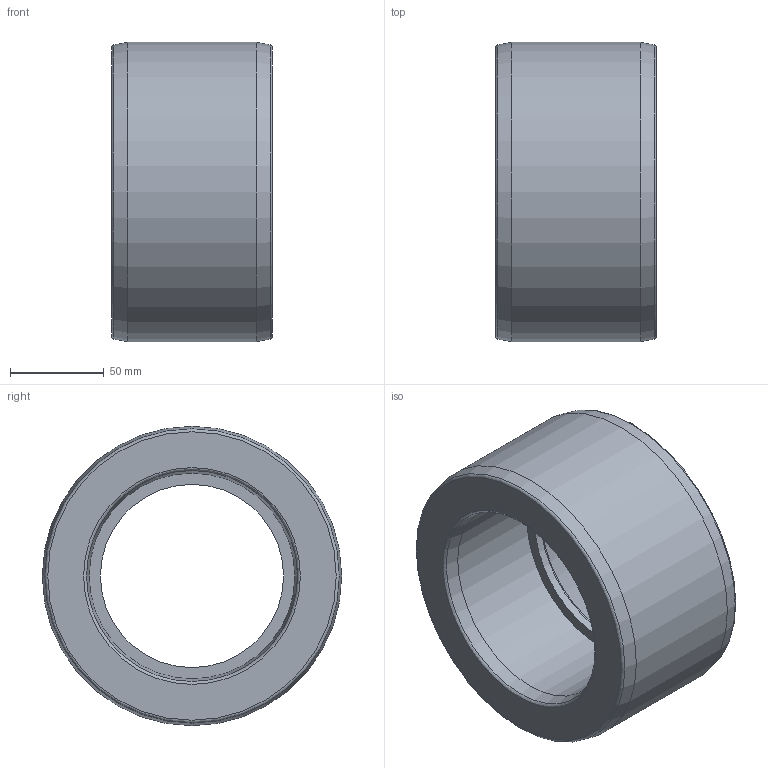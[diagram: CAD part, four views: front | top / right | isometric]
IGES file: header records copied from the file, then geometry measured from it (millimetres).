
Global section: file name: 050900160110.ipt; native system: Autodesk Inventor 2015; preprocessor: unknown; author: KIM; date: 20171207.165139; units: millimetre
Bounding box: 86 x 160 x 160 mm (x, y, z)
Volume: 910013.9 mm3; surface area: 92201.9 mm2
Topology: 1 solids, 1 shells, 15 faces, 43 edges, 31 vertices
Faces by surface type: revolution 9, plane 3, cone 2, cylinder 1
Full cylindrical faces by diameter (mm): 160 x1
